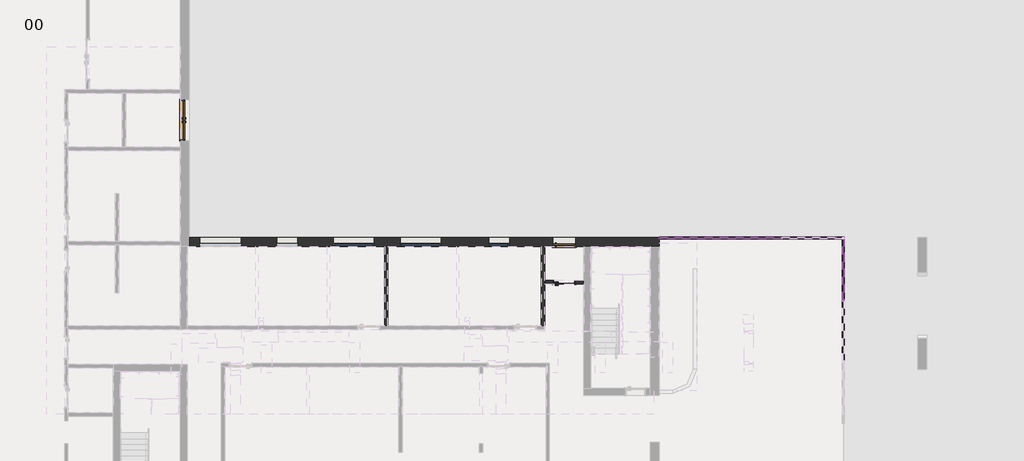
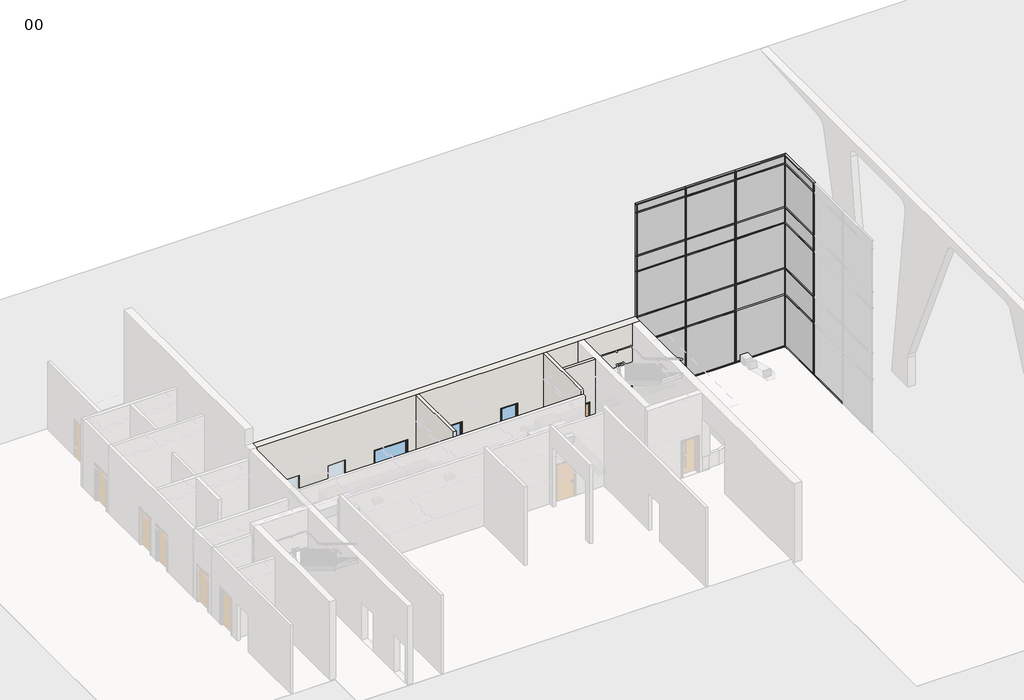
# One storey, part 7 of 12: 66 members, 24 plates, 4 walls, 3 doors, 3 windows.
"""IFC4 building model written with IfcOpenShell, lengths in millimetres."""

from ifc_helpers import new_model, si_unit, frame, origin, origin_with_axes, place, context, project, spatial, polyline, outline, extrude, faceted_brep, transform, mapped, element, save
from components import doors_extsgl_flush_1010x2110mm_caf77e55, doors_intsgl_1_1010x2110mm_7920e6b8, doors_sco_extdbl_flush_1810x2110mm_3cdf6cdb, rectangular_mullion_curtainwallmullion_rectangular_generic_8ae0e668, rectangular_mullion_curtainwallmullion_rectangular_generic_15c16c91, rectangular_mullion_curtainwallmullion_rectangular_generic_08fbcc14, rectangular_mullion_curtainwallmullion_rectangular_generic_83e55909, rectangular_mullion_curtainwallmullion_rectangular_generic_5675a122, rectangular_mullion_curtainwallmullion_rectangular_generic_397fb318, rectangular_mullion_curtainwallmullion_rectangular_generic_0a5b04f7, rectangular_mullion_curtainwallmullion_rectangular_generic_55e77994, rectangular_mullion_curtainwallmullion_rectangular_generic_aee1ee25, rectangular_mullion_curtainwallmullion_rectangular_generic_ecbc4312, rectangular_mullion_curtainwallmullion_rectangular_generic_5eb3c60d, rectangular_mullion_curtainwallmullion_rectangular_generic_0800385b, rectangular_mullion_curtainwallmullion_rectangular_generic_bd027367, rectangular_mullion_curtainwallmullion_rectangular_generic_2e425acd, rectangular_mullion_curtainwallmullion_rectangular_generic_12ad56c0, rectangular_mullion_curtainwallmullion_rectangular_generic_bd817207, rectangular_mullion_curtainwallmullion_rectangular_generic_654ac675, rectangular_mullion_curtainwallmullion_rectangular_generic_e7c47ca9, rectangular_mullion_curtainwallmullion_rectangular_generic_c0600e94, rectangular_mullion_curtainwallmullion_rectangular_generic_3bdb59d8, rectangular_mullion_curtainwallmullion_rectangular_generic_c640f651, rectangular_mullion_curtainwallmullion_rectangular_generic_afb0b622, rectangular_mullion_curtainwallmullion_rectangular_generic_b2d53351, rectangular_mullion_curtainwallmullion_rectangular_generic_d47b8a9d, system_panel_curtainpanel_glazed_34fb785a, system_panel_curtainpanel_glazed_e4a4eab4, system_panel_curtainpanel_glazed_add7ee21, system_panel_curtainpanel_glazed_62d472f1, system_panel_curtainpanel_glazed_085e24f9, system_panel_curtainpanel_glazed_61bd8d65, system_panel_curtainpanel_glazed_9c2ad216, system_panel_curtainpanel_glazed_ebc755d6, system_panel_curtainpanel_glazed_b0e91fb3, system_panel_curtainpanel_solid_dd3d5109, system_panel_curtainpanel_solid_473eca6b, system_panel_curtainpanel_solid_fc584997, system_panel_curtainpanel_solid_60141125, system_panel_curtainpanel_solid_58f7520c, system_panel_curtainpanel_solid_7c598b10, system_panel_curtainpanel_solid_5de49f81, system_panel_curtainpanel_solid_e1c9013e, system_panel_curtainpanel_solid_444add22, windows_concept_plain_sgl_1810x1210mm_7f7241d7, windows_concept_plain_sgl_910x1210mm_ef0b7ad2

model = new_model("IFC4")

# Units and contexts
model_context = context("Model", 3, world=origin())
ifc_project = project(units=[si_unit("LENGTHUNIT", "METRE", prefix="MILLI")], contexts=[model_context])

# Site, building, storey
site = spatial("IfcSite", under=ifc_project)
building = spatial("IfcBuilding", under=site)
storey = spatial("IfcBuildingStorey", under=building, Name="00", Elevation=0.0)

# Doors
placement = place(None, origin())
doors_extsgl_flush_1010x2110mm_shape = doors_extsgl_flush_1010x2110mm_caf77e55(model_context)
element("IfcDoor", 1, ObjectType="Doors_ExtSgl_Flush : 1010x2110mm", at=placement, inside=storey, context=model_context, shape_type="MappedRepresentation", body=[
    mapped(doors_extsgl_flush_1010x2110mm_shape, transform((441942.3206883, -381349.0026386, 0.0), x_axis=(1.0, 0.0, 0.0), y_axis=(0.0, 1.0, 0.0), z_axis=(0.0, 0.0, 1.0))),
])
doors_intsgl_1_1010x2110mm_shape = doors_intsgl_1_1010x2110mm_7920e6b8(model_context)
element("IfcDoor", 2, ObjectType="Doors_IntSgl_1 : 1010x2110mm", at=placement, inside=storey, context=model_context, shape_type="MappedRepresentation", body=[
    mapped(doors_intsgl_1_1010x2110mm_shape, transform((441942.3206883, -383125.0026386, 0.0), x_axis=(1.0, 0.0, 0.0), y_axis=(0.0, 1.0, 0.0), z_axis=(0.0, 0.0, 1.0))),
])
doors_sco_extdbl_flush_1810x2110mm_shape = doors_sco_extdbl_flush_1810x2110mm_3cdf6cdb(model_context)
element("IfcDoor", 3, ObjectType="Doors_SCO_ExtDbl_Flush : 1810x2110mm", at=placement, inside=storey, context=model_context, shape_type="MappedRepresentation", body=[
    mapped(doors_sco_extdbl_flush_1810x2110mm_shape, transform((425213.3206883, -375964.0026386, 0.0), x_axis=(0.0, 1.0, 0.0), y_axis=(-1.0, 0.0, 0.0), z_axis=(0.0, 0.0, 1.0))),
])

# Members
rectangular_mullion_curtainwallmullion_rectangular_generic_shape = rectangular_mullion_curtainwallmullion_rectangular_generic_8ae0e668(model_context)
element("IfcMember", 4, ObjectType="Rectangular Mullion : CurtainWallMullion_Rectangular_Generic", at=placement, inside=storey, context=model_context, shape_type="MappedRepresentation", body=[
    mapped(rectangular_mullion_curtainwallmullion_rectangular_generic_shape, transform((448817.3206884, -381170.0026386, 10486.7), x_axis=(1.0, 0.0, 0.0), y_axis=(0.0, -1.0, 0.0), z_axis=(0.0, 0.0, -1.0))),
])
element("IfcMember", 5, ObjectType="Rectangular Mullion : CurtainWallMullion_Rectangular_Generic", at=placement, inside=storey, context=model_context, shape_type="MappedRepresentation", body=[
    mapped(rectangular_mullion_curtainwallmullion_rectangular_generic_shape, transform((451519.3206882, -381170.0026386, 10486.7), x_axis=(1.0, 0.0, 0.0), y_axis=(0.0, -1.0, 0.0), z_axis=(0.0, 0.0, -1.0))),
])
element("IfcMember", 6, ObjectType="Rectangular Mullion : CurtainWallMullion_Rectangular_Generic", at=placement, inside=storey, context=model_context, shape_type="MappedRepresentation", body=[
    mapped(rectangular_mullion_curtainwallmullion_rectangular_generic_shape, transform((454246.3206883, -383909.6026389, 10486.7), x_axis=(0.0, -1.0, 0.0), y_axis=(-1.0, 0.0, 0.0), z_axis=(0.0, 0.0, -1.0))),
])
rectangular_mullion_curtainwallmullion_rectangular_generic_2_shape = rectangular_mullion_curtainwallmullion_rectangular_generic_15c16c91(model_context)
element("IfcMember", 7, ObjectType="Rectangular Mullion : CurtainWallMullion_Rectangular_Generic", at=placement, inside=storey, context=model_context, shape_type="MappedRepresentation", body=[
    mapped(rectangular_mullion_curtainwallmullion_rectangular_generic_2_shape, transform((454246.3206883, -381170.0026386, 10486.7), x_axis=(1.0, 0.0, 0.0), y_axis=(0.0, -1.0, 0.0), z_axis=(0.0, 0.0, -1.0))),
])
element("IfcMember", 8, ObjectType="Rectangular Mullion : CurtainWallMullion_Rectangular_Generic", at=placement, inside=storey, context=model_context, shape_type="MappedRepresentation", body=[
    mapped(rectangular_mullion_curtainwallmullion_rectangular_generic_2_shape, transform((446140.3206883, -381170.0026386, 10950.0), x_axis=(-1.0, 0.0, 0.0), y_axis=(0.0, -1.0, 0.0), z_axis=(0.0, 0.0, 1.0))),
])
element("IfcMember", 9, ObjectType="Rectangular Mullion : CurtainWallMullion_Rectangular_Generic", at=placement, inside=storey, context=model_context, shape_type="MappedRepresentation", body=[
    mapped(rectangular_mullion_curtainwallmullion_rectangular_generic_2_shape, transform((454246.3206883, -381170.0026386, 10950.0), x_axis=(0.0, 1.0, 0.0), y_axis=(-1.0, 0.0, 0.0), z_axis=(0.0, 0.0, 1.0))),
])
rectangular_mullion_curtainwallmullion_rectangular_generic_3_shape = rectangular_mullion_curtainwallmullion_rectangular_generic_08fbcc14(model_context)
element("IfcMember", 10, ObjectType="Rectangular Mullion : CurtainWallMullion_Rectangular_Generic", at=placement, inside=storey, context=model_context, shape_type="MappedRepresentation", body=[
    mapped(rectangular_mullion_curtainwallmullion_rectangular_generic_3_shape, transform((454246.3206883, -383909.6026389, 8000.0), x_axis=(0.0, -1.0, 0.0), y_axis=(-1.0, 0.0, 0.0), z_axis=(0.0, 0.0, -1.0))),
])
element("IfcMember", 11, ObjectType="Rectangular Mullion : CurtainWallMullion_Rectangular_Generic", at=placement, inside=storey, context=model_context, shape_type="MappedRepresentation", body=[
    mapped(rectangular_mullion_curtainwallmullion_rectangular_generic_3_shape, transform((448817.3206884, -381170.0026386, 8000.0), x_axis=(1.0, 0.0, 0.0), y_axis=(0.0, -1.0, 0.0), z_axis=(0.0, 0.0, -1.0))),
])
element("IfcMember", 12, ObjectType="Rectangular Mullion : CurtainWallMullion_Rectangular_Generic", at=placement, inside=storey, context=model_context, shape_type="MappedRepresentation", body=[
    mapped(rectangular_mullion_curtainwallmullion_rectangular_generic_3_shape, transform((451519.3206882, -381170.0026386, 8000.0), x_axis=(1.0, 0.0, 0.0), y_axis=(0.0, -1.0, 0.0), z_axis=(0.0, 0.0, -1.0))),
])
rectangular_mullion_curtainwallmullion_rectangular_generic_4_shape = rectangular_mullion_curtainwallmullion_rectangular_generic_83e55909(model_context)
element("IfcMember", 13, ObjectType="Rectangular Mullion : CurtainWallMullion_Rectangular_Generic", at=placement, inside=storey, context=model_context, shape_type="MappedRepresentation", body=[
    mapped(rectangular_mullion_curtainwallmullion_rectangular_generic_4_shape, transform((446140.3206883, -381170.0026386, 10486.7), x_axis=(-1.0, 0.0, 0.0), y_axis=(0.0, -1.0, 0.0), z_axis=(0.0, 0.0, 1.0))),
])
element("IfcMember", 14, ObjectType="Rectangular Mullion : CurtainWallMullion_Rectangular_Generic", at=placement, inside=storey, context=model_context, shape_type="MappedRepresentation", body=[
    mapped(rectangular_mullion_curtainwallmullion_rectangular_generic_4_shape, transform((454246.3206883, -381170.0026386, 10486.7), x_axis=(0.0, 1.0, 0.0), y_axis=(-1.0, 0.0, 0.0), z_axis=(0.0, 0.0, 1.0))),
])
rectangular_mullion_curtainwallmullion_rectangular_generic_5_shape = rectangular_mullion_curtainwallmullion_rectangular_generic_5675a122(model_context)
element("IfcMember", 15, ObjectType="Rectangular Mullion : CurtainWallMullion_Rectangular_Generic", at=placement, inside=storey, context=model_context, shape_type="MappedRepresentation", body=[
    mapped(rectangular_mullion_curtainwallmullion_rectangular_generic_5_shape, transform((448817.3206884, -381170.0026386, 50.0), x_axis=(1.0, 0.0, 0.0), y_axis=(0.0, -1.0, 0.0), z_axis=(0.0, 0.0, -1.0))),
])
element("IfcMember", 16, ObjectType="Rectangular Mullion : CurtainWallMullion_Rectangular_Generic", at=placement, inside=storey, context=model_context, shape_type="MappedRepresentation", body=[
    mapped(rectangular_mullion_curtainwallmullion_rectangular_generic_5_shape, transform((451519.3206882, -381170.0026386, 50.0), x_axis=(1.0, 0.0, 0.0), y_axis=(0.0, -1.0, 0.0), z_axis=(0.0, 0.0, -1.0))),
])
element("IfcMember", 17, ObjectType="Rectangular Mullion : CurtainWallMullion_Rectangular_Generic", at=placement, inside=storey, context=model_context, shape_type="MappedRepresentation", body=[
    mapped(rectangular_mullion_curtainwallmullion_rectangular_generic_5_shape, transform((454246.3206883, -383909.6026389, 50.0), x_axis=(0.0, -1.0, 0.0), y_axis=(-1.0, 0.0, 0.0), z_axis=(0.0, 0.0, -1.0))),
])
rectangular_mullion_curtainwallmullion_rectangular_generic_6_shape = rectangular_mullion_curtainwallmullion_rectangular_generic_397fb318(model_context)
element("IfcMember", 18, ObjectType="Rectangular Mullion : CurtainWallMullion_Rectangular_Generic", at=placement, inside=storey, context=model_context, shape_type="MappedRepresentation", body=[
    mapped(rectangular_mullion_curtainwallmullion_rectangular_generic_6_shape, transform((446140.3206883, -381170.0026386, 2425.0), x_axis=(-1.0, 0.0, 0.0), y_axis=(0.0, -1.0, 0.0), z_axis=(0.0, 0.0, 1.0))),
])
element("IfcMember", 19, ObjectType="Rectangular Mullion : CurtainWallMullion_Rectangular_Generic", at=placement, inside=storey, context=model_context, shape_type="MappedRepresentation", body=[
    mapped(rectangular_mullion_curtainwallmullion_rectangular_generic_6_shape, transform((454246.3206883, -381170.0026386, 2425.0), x_axis=(0.0, 1.0, 0.0), y_axis=(-1.0, 0.0, 0.0), z_axis=(0.0, 0.0, 1.0))),
])
element("IfcMember", 20, ObjectType="Rectangular Mullion : CurtainWallMullion_Rectangular_Generic", at=placement, inside=storey, context=model_context, shape_type="MappedRepresentation", body=[
    mapped(rectangular_mullion_curtainwallmullion_rectangular_generic_6_shape, transform((454246.3206883, -381170.0026386, 50.0), x_axis=(1.0, 0.0, 0.0), y_axis=(0.0, -1.0, 0.0), z_axis=(0.0, 0.0, -1.0))),
])
rectangular_mullion_curtainwallmullion_rectangular_generic_7_shape = rectangular_mullion_curtainwallmullion_rectangular_generic_0a5b04f7(model_context)
element("IfcMember", 21, ObjectType="Rectangular Mullion : CurtainWallMullion_Rectangular_Generic", at=placement, inside=storey, context=model_context, shape_type="MappedRepresentation", body=[
    mapped(rectangular_mullion_curtainwallmullion_rectangular_generic_7_shape, transform((454246.3206883, -381170.0026386, 11000.0), x_axis=(0.0, 0.0, 1.0), y_axis=(0.0, -1.0, 0.0), z_axis=(1.0, 0.0, 0.0))),
])
rectangular_mullion_curtainwallmullion_rectangular_generic_8_shape = rectangular_mullion_curtainwallmullion_rectangular_generic_55e77994(model_context)
element("IfcMember", 22, ObjectType="Rectangular Mullion : CurtainWallMullion_Rectangular_Generic", at=placement, inside=storey, context=model_context, shape_type="MappedRepresentation", body=[
    mapped(rectangular_mullion_curtainwallmullion_rectangular_generic_8_shape, transform((454246.3206883, -383909.6026389, 11000.0), x_axis=(0.0, 0.0, 1.0), y_axis=(-1.0, 0.0, 0.0), z_axis=(0.0, -1.0, 0.0))),
])
rectangular_mullion_curtainwallmullion_rectangular_generic_9_shape = rectangular_mullion_curtainwallmullion_rectangular_generic_aee1ee25(model_context)
element("IfcMember", 23, ObjectType="Rectangular Mullion : CurtainWallMullion_Rectangular_Generic", at=placement, inside=storey, context=model_context, shape_type="MappedRepresentation", body=[
    mapped(rectangular_mullion_curtainwallmullion_rectangular_generic_9_shape, transform((448817.3206884, -381170.0026386, 11000.0), x_axis=(0.0, 0.0, 1.0), y_axis=(0.0, -1.0, 0.0), z_axis=(1.0, 0.0, 0.0))),
])
rectangular_mullion_curtainwallmullion_rectangular_generic_10_shape = rectangular_mullion_curtainwallmullion_rectangular_generic_ecbc4312(model_context)
element("IfcMember", 24, ObjectType="Rectangular Mullion : CurtainWallMullion_Rectangular_Generic", at=placement, inside=storey, context=model_context, shape_type="MappedRepresentation", body=[
    mapped(rectangular_mullion_curtainwallmullion_rectangular_generic_10_shape, transform((451519.3206882, -381170.0026386, 11000.0), x_axis=(0.0, 0.0, 1.0), y_axis=(0.0, -1.0, 0.0), z_axis=(1.0, 0.0, 0.0))),
])
element("IfcMember", 25, ObjectType="Rectangular Mullion : CurtainWallMullion_Rectangular_Generic", at=placement, inside=storey, context=model_context, shape_type="MappedRepresentation", body=[
    mapped(rectangular_mullion_curtainwallmullion_rectangular_generic_9_shape, transform((446140.3206883, -381170.0026386, 0.0), x_axis=(0.0, 0.0, -1.0), y_axis=(0.0, -1.0, 0.0), z_axis=(-1.0, 0.0, 0.0))),
])
element("IfcMember", 26, ObjectType="Rectangular Mullion : CurtainWallMullion_Rectangular_Generic", at=placement, inside=storey, context=model_context, shape_type="MappedRepresentation", body=[
    mapped(rectangular_mullion_curtainwallmullion_rectangular_generic_10_shape, transform((448817.3206884, -381170.0026386, 0.0), x_axis=(0.0, 0.0, -1.0), y_axis=(0.0, -1.0, 0.0), z_axis=(-1.0, 0.0, 0.0))),
])
rectangular_mullion_curtainwallmullion_rectangular_generic_11_shape = rectangular_mullion_curtainwallmullion_rectangular_generic_5eb3c60d(model_context)
element("IfcMember", 27, ObjectType="Rectangular Mullion : CurtainWallMullion_Rectangular_Generic", at=placement, inside=storey, context=model_context, shape_type="MappedRepresentation", body=[
    mapped(rectangular_mullion_curtainwallmullion_rectangular_generic_11_shape, transform((451519.3206882, -381170.0026386, 0.0), x_axis=(0.0, 0.0, -1.0), y_axis=(0.0, -1.0, 0.0), z_axis=(-1.0, 0.0, 0.0))),
])
rectangular_mullion_curtainwallmullion_rectangular_generic_12_shape = rectangular_mullion_curtainwallmullion_rectangular_generic_0800385b(model_context)
element("IfcMember", 28, ObjectType="Rectangular Mullion : CurtainWallMullion_Rectangular_Generic", at=placement, inside=storey, context=model_context, shape_type="MappedRepresentation", body=[
    mapped(rectangular_mullion_curtainwallmullion_rectangular_generic_12_shape, transform((454246.3206883, -381170.0026386, 0.0), x_axis=(0.0, 0.0, -1.0), y_axis=(-1.0, 0.0, 0.0), z_axis=(0.0, 1.0, 0.0))),
])
rectangular_mullion_curtainwallmullion_rectangular_generic_13_shape = rectangular_mullion_curtainwallmullion_rectangular_generic_bd027367(model_context)
element("IfcMember", 29, ObjectType="Rectangular Mullion : CurtainWallMullion_Rectangular_Generic", at=placement, inside=storey, context=model_context, shape_type="MappedRepresentation", body=[
    mapped(rectangular_mullion_curtainwallmullion_rectangular_generic_13_shape, transform((448792.3206884, -381170.0026386, 4500.0), x_axis=(0.0, 0.0, 1.0), y_axis=(0.0, -1.0, 0.0), z_axis=(1.0, 0.0, 0.0))),
])
element("IfcMember", 30, ObjectType="Rectangular Mullion : CurtainWallMullion_Rectangular_Generic", at=placement, inside=storey, context=model_context, shape_type="MappedRepresentation", body=[
    mapped(rectangular_mullion_curtainwallmullion_rectangular_generic_13_shape, transform((448792.3206884, -381170.0026386, 7100.0), x_axis=(0.0, 0.0, 1.0), y_axis=(0.0, -1.0, 0.0), z_axis=(1.0, 0.0, 0.0))),
])
element("IfcMember", 31, ObjectType="Rectangular Mullion : CurtainWallMullion_Rectangular_Generic", at=placement, inside=storey, context=model_context, shape_type="MappedRepresentation", body=[
    mapped(rectangular_mullion_curtainwallmullion_rectangular_generic_13_shape, transform((448792.3206884, -381170.0026386, 10486.7), x_axis=(0.0, 0.0, 1.0), y_axis=(0.0, -1.0, 0.0), z_axis=(1.0, 0.0, 0.0))),
])
element("IfcMember", 32, ObjectType="Rectangular Mullion : CurtainWallMullion_Rectangular_Generic", at=placement, inside=storey, context=model_context, shape_type="MappedRepresentation", body=[
    mapped(rectangular_mullion_curtainwallmullion_rectangular_generic_13_shape, transform((448792.3206884, -381170.0026386, 8000.0), x_axis=(0.0, 0.0, 1.0), y_axis=(0.0, -1.0, 0.0), z_axis=(1.0, 0.0, 0.0))),
])
element("IfcMember", 33, ObjectType="Rectangular Mullion : CurtainWallMullion_Rectangular_Generic", at=placement, inside=storey, context=model_context, shape_type="MappedRepresentation", body=[
    mapped(rectangular_mullion_curtainwallmullion_rectangular_generic_13_shape, transform((448792.3206884, -381170.0026386, 3000.0), x_axis=(0.0, 0.0, 1.0), y_axis=(0.0, -1.0, 0.0), z_axis=(1.0, 0.0, 0.0))),
])
rectangular_mullion_curtainwallmullion_rectangular_generic_14_shape = rectangular_mullion_curtainwallmullion_rectangular_generic_2e425acd(model_context)
element("IfcMember", 34, ObjectType="Rectangular Mullion : CurtainWallMullion_Rectangular_Generic", at=placement, inside=storey, context=model_context, shape_type="MappedRepresentation", body=[
    mapped(rectangular_mullion_curtainwallmullion_rectangular_generic_14_shape, transform((451494.3206882, -381170.0026386, 4500.0), x_axis=(0.0, 0.0, 1.0), y_axis=(0.0, -1.0, 0.0), z_axis=(1.0, 0.0, 0.0))),
])
element("IfcMember", 35, ObjectType="Rectangular Mullion : CurtainWallMullion_Rectangular_Generic", at=placement, inside=storey, context=model_context, shape_type="MappedRepresentation", body=[
    mapped(rectangular_mullion_curtainwallmullion_rectangular_generic_14_shape, transform((454196.3206883, -381170.0026386, 4500.0), x_axis=(0.0, 0.0, 1.0), y_axis=(0.0, -1.0, 0.0), z_axis=(1.0, 0.0, 0.0))),
])
element("IfcMember", 36, ObjectType="Rectangular Mullion : CurtainWallMullion_Rectangular_Generic", at=placement, inside=storey, context=model_context, shape_type="MappedRepresentation", body=[
    mapped(rectangular_mullion_curtainwallmullion_rectangular_generic_14_shape, transform((451494.3206882, -381170.0026386, 7100.0), x_axis=(0.0, 0.0, 1.0), y_axis=(0.0, -1.0, 0.0), z_axis=(1.0, 0.0, 0.0))),
])
element("IfcMember", 37, ObjectType="Rectangular Mullion : CurtainWallMullion_Rectangular_Generic", at=placement, inside=storey, context=model_context, shape_type="MappedRepresentation", body=[
    mapped(rectangular_mullion_curtainwallmullion_rectangular_generic_14_shape, transform((454196.3206883, -381170.0026386, 7100.0), x_axis=(0.0, 0.0, 1.0), y_axis=(0.0, -1.0, 0.0), z_axis=(1.0, 0.0, 0.0))),
])
element("IfcMember", 38, ObjectType="Rectangular Mullion : CurtainWallMullion_Rectangular_Generic", at=placement, inside=storey, context=model_context, shape_type="MappedRepresentation", body=[
    mapped(rectangular_mullion_curtainwallmullion_rectangular_generic_14_shape, transform((451494.3206882, -381170.0026386, 10486.7), x_axis=(0.0, 0.0, 1.0), y_axis=(0.0, -1.0, 0.0), z_axis=(1.0, 0.0, 0.0))),
])
element("IfcMember", 39, ObjectType="Rectangular Mullion : CurtainWallMullion_Rectangular_Generic", at=placement, inside=storey, context=model_context, shape_type="MappedRepresentation", body=[
    mapped(rectangular_mullion_curtainwallmullion_rectangular_generic_14_shape, transform((454196.3206883, -381170.0026386, 10486.7), x_axis=(0.0, 0.0, 1.0), y_axis=(0.0, -1.0, 0.0), z_axis=(1.0, 0.0, 0.0))),
])
element("IfcMember", 40, ObjectType="Rectangular Mullion : CurtainWallMullion_Rectangular_Generic", at=placement, inside=storey, context=model_context, shape_type="MappedRepresentation", body=[
    mapped(rectangular_mullion_curtainwallmullion_rectangular_generic_14_shape, transform((451494.3206882, -381170.0026386, 8000.0), x_axis=(0.0, 0.0, 1.0), y_axis=(0.0, -1.0, 0.0), z_axis=(1.0, 0.0, 0.0))),
])
element("IfcMember", 41, ObjectType="Rectangular Mullion : CurtainWallMullion_Rectangular_Generic", at=placement, inside=storey, context=model_context, shape_type="MappedRepresentation", body=[
    mapped(rectangular_mullion_curtainwallmullion_rectangular_generic_14_shape, transform((451494.3206882, -381170.0026386, 3000.0), x_axis=(0.0, 0.0, 1.0), y_axis=(0.0, -1.0, 0.0), z_axis=(1.0, 0.0, 0.0))),
])
rectangular_mullion_curtainwallmullion_rectangular_generic_15_shape = rectangular_mullion_curtainwallmullion_rectangular_generic_12ad56c0(model_context)
element("IfcMember", 42, ObjectType="Rectangular Mullion : CurtainWallMullion_Rectangular_Generic", at=placement, inside=storey, context=model_context, shape_type="MappedRepresentation", body=[
    mapped(rectangular_mullion_curtainwallmullion_rectangular_generic_15_shape, transform((454246.3206883, -383909.6026389, 0.0), x_axis=(0.0, 0.0, -1.0), y_axis=(-1.0, 0.0, 0.0), z_axis=(0.0, 1.0, 0.0))),
])
rectangular_mullion_curtainwallmullion_rectangular_generic_16_shape = rectangular_mullion_curtainwallmullion_rectangular_generic_bd817207(model_context)
element("IfcMember", 43, ObjectType="Rectangular Mullion : CurtainWallMullion_Rectangular_Generic", at=placement, inside=storey, context=model_context, shape_type="MappedRepresentation", body=[
    mapped(rectangular_mullion_curtainwallmullion_rectangular_generic_16_shape, transform((454246.3206883, -383884.6026389, 4500.0), x_axis=(0.0, 0.0, 1.0), y_axis=(-1.0, 0.0, 0.0), z_axis=(0.0, -1.0, 0.0))),
])
element("IfcMember", 44, ObjectType="Rectangular Mullion : CurtainWallMullion_Rectangular_Generic", at=placement, inside=storey, context=model_context, shape_type="MappedRepresentation", body=[
    mapped(rectangular_mullion_curtainwallmullion_rectangular_generic_16_shape, transform((454246.3206883, -383884.6026389, 7100.0), x_axis=(0.0, 0.0, 1.0), y_axis=(-1.0, 0.0, 0.0), z_axis=(0.0, -1.0, 0.0))),
])
element("IfcMember", 45, ObjectType="Rectangular Mullion : CurtainWallMullion_Rectangular_Generic", at=placement, inside=storey, context=model_context, shape_type="MappedRepresentation", body=[
    mapped(rectangular_mullion_curtainwallmullion_rectangular_generic_16_shape, transform((454246.3206883, -383884.6026389, 10486.7), x_axis=(0.0, 0.0, 1.0), y_axis=(-1.0, 0.0, 0.0), z_axis=(0.0, -1.0, 0.0))),
])
element("IfcMember", 46, ObjectType="Rectangular Mullion : CurtainWallMullion_Rectangular_Generic", at=placement, inside=storey, context=model_context, shape_type="MappedRepresentation", body=[
    mapped(rectangular_mullion_curtainwallmullion_rectangular_generic_16_shape, transform((454246.3206883, -383884.6026389, 8000.0), x_axis=(0.0, 0.0, 1.0), y_axis=(-1.0, 0.0, 0.0), z_axis=(0.0, -1.0, 0.0))),
])
element("IfcMember", 47, ObjectType="Rectangular Mullion : CurtainWallMullion_Rectangular_Generic", at=placement, inside=storey, context=model_context, shape_type="MappedRepresentation", body=[
    mapped(rectangular_mullion_curtainwallmullion_rectangular_generic_16_shape, transform((454246.3206883, -383884.6026389, 3000.0), x_axis=(0.0, 0.0, 1.0), y_axis=(-1.0, 0.0, 0.0), z_axis=(0.0, -1.0, 0.0))),
])
rectangular_mullion_curtainwallmullion_rectangular_generic_17_shape = rectangular_mullion_curtainwallmullion_rectangular_generic_654ac675(model_context)
element("IfcMember", 48, ObjectType="Rectangular Mullion : CurtainWallMullion_Rectangular_Generic", at=placement, inside=storey, context=model_context, shape_type="MappedRepresentation", body=[
    mapped(rectangular_mullion_curtainwallmullion_rectangular_generic_17_shape, transform((448817.3206884, -381170.0026386, 4500.0), x_axis=(1.0, 0.0, 0.0), y_axis=(0.0, -1.0, 0.0), z_axis=(0.0, 0.0, -1.0))),
])
element("IfcMember", 49, ObjectType="Rectangular Mullion : CurtainWallMullion_Rectangular_Generic", at=placement, inside=storey, context=model_context, shape_type="MappedRepresentation", body=[
    mapped(rectangular_mullion_curtainwallmullion_rectangular_generic_17_shape, transform((451519.3206882, -381170.0026386, 4500.0), x_axis=(1.0, 0.0, 0.0), y_axis=(0.0, -1.0, 0.0), z_axis=(0.0, 0.0, -1.0))),
])
element("IfcMember", 50, ObjectType="Rectangular Mullion : CurtainWallMullion_Rectangular_Generic", at=placement, inside=storey, context=model_context, shape_type="MappedRepresentation", body=[
    mapped(rectangular_mullion_curtainwallmullion_rectangular_generic_17_shape, transform((454246.3206883, -383909.6026389, 4500.0), x_axis=(0.0, -1.0, 0.0), y_axis=(-1.0, 0.0, 0.0), z_axis=(0.0, 0.0, -1.0))),
])
rectangular_mullion_curtainwallmullion_rectangular_generic_18_shape = rectangular_mullion_curtainwallmullion_rectangular_generic_e7c47ca9(model_context)
element("IfcMember", 51, ObjectType="Rectangular Mullion : CurtainWallMullion_Rectangular_Generic", at=placement, inside=storey, context=model_context, shape_type="MappedRepresentation", body=[
    mapped(rectangular_mullion_curtainwallmullion_rectangular_generic_18_shape, transform((454246.3206883, -381170.0026386, 4500.0), x_axis=(1.0, 0.0, 0.0), y_axis=(0.0, -1.0, 0.0), z_axis=(0.0, 0.0, -1.0))),
])
element("IfcMember", 52, ObjectType="Rectangular Mullion : CurtainWallMullion_Rectangular_Generic", at=placement, inside=storey, context=model_context, shape_type="MappedRepresentation", body=[
    mapped(rectangular_mullion_curtainwallmullion_rectangular_generic_18_shape, transform((446140.3206883, -381170.0026386, 7100.0), x_axis=(-1.0, 0.0, 0.0), y_axis=(0.0, -1.0, 0.0), z_axis=(0.0, 0.0, 1.0))),
])
element("IfcMember", 53, ObjectType="Rectangular Mullion : CurtainWallMullion_Rectangular_Generic", at=placement, inside=storey, context=model_context, shape_type="MappedRepresentation", body=[
    mapped(rectangular_mullion_curtainwallmullion_rectangular_generic_18_shape, transform((454246.3206883, -381170.0026386, 7100.0), x_axis=(0.0, 1.0, 0.0), y_axis=(-1.0, 0.0, 0.0), z_axis=(0.0, 0.0, 1.0))),
])
rectangular_mullion_curtainwallmullion_rectangular_generic_19_shape = rectangular_mullion_curtainwallmullion_rectangular_generic_c0600e94(model_context)
element("IfcMember", 54, ObjectType="Rectangular Mullion : CurtainWallMullion_Rectangular_Generic", at=placement, inside=storey, context=model_context, shape_type="MappedRepresentation", body=[
    mapped(rectangular_mullion_curtainwallmullion_rectangular_generic_19_shape, transform((454246.3206883, -383909.6026389, 3000.0), x_axis=(0.0, -1.0, 0.0), y_axis=(-1.0, 0.0, 0.0), z_axis=(0.0, 0.0, -1.0))),
])
element("IfcMember", 55, ObjectType="Rectangular Mullion : CurtainWallMullion_Rectangular_Generic", at=placement, inside=storey, context=model_context, shape_type="MappedRepresentation", body=[
    mapped(rectangular_mullion_curtainwallmullion_rectangular_generic_19_shape, transform((448817.3206884, -381170.0026386, 3000.0), x_axis=(1.0, 0.0, 0.0), y_axis=(0.0, -1.0, 0.0), z_axis=(0.0, 0.0, -1.0))),
])
element("IfcMember", 56, ObjectType="Rectangular Mullion : CurtainWallMullion_Rectangular_Generic", at=placement, inside=storey, context=model_context, shape_type="MappedRepresentation", body=[
    mapped(rectangular_mullion_curtainwallmullion_rectangular_generic_19_shape, transform((451519.3206882, -381170.0026386, 3000.0), x_axis=(1.0, 0.0, 0.0), y_axis=(0.0, -1.0, 0.0), z_axis=(0.0, 0.0, -1.0))),
])
rectangular_mullion_curtainwallmullion_rectangular_generic_20_shape = rectangular_mullion_curtainwallmullion_rectangular_generic_3bdb59d8(model_context)
element("IfcMember", 57, ObjectType="Rectangular Mullion : CurtainWallMullion_Rectangular_Generic", at=placement, inside=storey, context=model_context, shape_type="MappedRepresentation", body=[
    mapped(rectangular_mullion_curtainwallmullion_rectangular_generic_20_shape, transform((446140.3206883, -381170.0026386, 4500.0), x_axis=(-1.0, 0.0, 0.0), y_axis=(0.0, -1.0, 0.0), z_axis=(0.0, 0.0, 1.0))),
])
element("IfcMember", 58, ObjectType="Rectangular Mullion : CurtainWallMullion_Rectangular_Generic", at=placement, inside=storey, context=model_context, shape_type="MappedRepresentation", body=[
    mapped(rectangular_mullion_curtainwallmullion_rectangular_generic_20_shape, transform((454246.3206883, -381170.0026386, 4500.0), x_axis=(0.0, 1.0, 0.0), y_axis=(-1.0, 0.0, 0.0), z_axis=(0.0, 0.0, 1.0))),
])
rectangular_mullion_curtainwallmullion_rectangular_generic_21_shape = rectangular_mullion_curtainwallmullion_rectangular_generic_c640f651(model_context)
element("IfcMember", 59, ObjectType="Rectangular Mullion : CurtainWallMullion_Rectangular_Generic", at=placement, inside=storey, context=model_context, shape_type="MappedRepresentation", body=[
    mapped(rectangular_mullion_curtainwallmullion_rectangular_generic_21_shape, transform((448817.3206884, -381170.0026386, 7100.0), x_axis=(1.0, 0.0, 0.0), y_axis=(0.0, -1.0, 0.0), z_axis=(0.0, 0.0, -1.0))),
])
element("IfcMember", 60, ObjectType="Rectangular Mullion : CurtainWallMullion_Rectangular_Generic", at=placement, inside=storey, context=model_context, shape_type="MappedRepresentation", body=[
    mapped(rectangular_mullion_curtainwallmullion_rectangular_generic_21_shape, transform((451519.3206882, -381170.0026386, 7100.0), x_axis=(1.0, 0.0, 0.0), y_axis=(0.0, -1.0, 0.0), z_axis=(0.0, 0.0, -1.0))),
])
element("IfcMember", 61, ObjectType="Rectangular Mullion : CurtainWallMullion_Rectangular_Generic", at=placement, inside=storey, context=model_context, shape_type="MappedRepresentation", body=[
    mapped(rectangular_mullion_curtainwallmullion_rectangular_generic_21_shape, transform((454246.3206883, -383909.6026389, 7100.0), x_axis=(0.0, -1.0, 0.0), y_axis=(-1.0, 0.0, 0.0), z_axis=(0.0, 0.0, -1.0))),
])
rectangular_mullion_curtainwallmullion_rectangular_generic_22_shape = rectangular_mullion_curtainwallmullion_rectangular_generic_afb0b622(model_context)
element("IfcMember", 62, ObjectType="Rectangular Mullion : CurtainWallMullion_Rectangular_Generic", at=placement, inside=storey, context=model_context, shape_type="MappedRepresentation", body=[
    mapped(rectangular_mullion_curtainwallmullion_rectangular_generic_22_shape, transform((454246.3206883, -381170.0026386, 7100.0), x_axis=(1.0, 0.0, 0.0), y_axis=(0.0, -1.0, 0.0), z_axis=(0.0, 0.0, -1.0))),
])
element("IfcMember", 63, ObjectType="Rectangular Mullion : CurtainWallMullion_Rectangular_Generic", at=placement, inside=storey, context=model_context, shape_type="MappedRepresentation", body=[
    mapped(rectangular_mullion_curtainwallmullion_rectangular_generic_22_shape, transform((454246.3206883, -381170.0026386, 8000.0), x_axis=(0.0, 1.0, 0.0), y_axis=(-1.0, 0.0, 0.0), z_axis=(0.0, 0.0, 1.0))),
])
element("IfcMember", 64, ObjectType="Rectangular Mullion : CurtainWallMullion_Rectangular_Generic", at=placement, inside=storey, context=model_context, shape_type="MappedRepresentation", body=[
    mapped(rectangular_mullion_curtainwallmullion_rectangular_generic_22_shape, transform((446140.3206883, -381170.0026386, 8000.0), x_axis=(-1.0, 0.0, 0.0), y_axis=(0.0, -1.0, 0.0), z_axis=(0.0, 0.0, 1.0))),
])
rectangular_mullion_curtainwallmullion_rectangular_generic_23_shape = rectangular_mullion_curtainwallmullion_rectangular_generic_b2d53351(model_context)
element("IfcMember", 65, ObjectType="Rectangular Mullion : CurtainWallMullion_Rectangular_Generic", at=placement, inside=storey, context=model_context, shape_type="MappedRepresentation", body=[
    mapped(rectangular_mullion_curtainwallmullion_rectangular_generic_23_shape, transform((448817.3206884, -381170.0026386, 2425.0), x_axis=(1.0, 0.0, 0.0), y_axis=(0.0, -1.0, 0.0), z_axis=(0.0, 0.0, -1.0))),
])
element("IfcMember", 66, ObjectType="Rectangular Mullion : CurtainWallMullion_Rectangular_Generic", at=placement, inside=storey, context=model_context, shape_type="MappedRepresentation", body=[
    mapped(rectangular_mullion_curtainwallmullion_rectangular_generic_23_shape, transform((451519.3206882, -381170.0026386, 2425.0), x_axis=(1.0, 0.0, 0.0), y_axis=(0.0, -1.0, 0.0), z_axis=(0.0, 0.0, -1.0))),
])
element("IfcMember", 67, ObjectType="Rectangular Mullion : CurtainWallMullion_Rectangular_Generic", at=placement, inside=storey, context=model_context, shape_type="MappedRepresentation", body=[
    mapped(rectangular_mullion_curtainwallmullion_rectangular_generic_23_shape, transform((454246.3206883, -383909.6026389, 2425.0), x_axis=(0.0, -1.0, 0.0), y_axis=(-1.0, 0.0, 0.0), z_axis=(0.0, 0.0, -1.0))),
])
rectangular_mullion_curtainwallmullion_rectangular_generic_24_shape = rectangular_mullion_curtainwallmullion_rectangular_generic_d47b8a9d(model_context)
element("IfcMember", 68, ObjectType="Rectangular Mullion : CurtainWallMullion_Rectangular_Generic", at=placement, inside=storey, context=model_context, shape_type="MappedRepresentation", body=[
    mapped(rectangular_mullion_curtainwallmullion_rectangular_generic_24_shape, transform((454246.3206883, -381170.0026386, 2425.0), x_axis=(1.0, 0.0, 0.0), y_axis=(0.0, -1.0, 0.0), z_axis=(0.0, 0.0, -1.0))),
])
element("IfcMember", 69, ObjectType="Rectangular Mullion : CurtainWallMullion_Rectangular_Generic", at=placement, inside=storey, context=model_context, shape_type="MappedRepresentation", body=[
    mapped(rectangular_mullion_curtainwallmullion_rectangular_generic_24_shape, transform((446140.3206883, -381170.0026386, 3000.0), x_axis=(-1.0, 0.0, 0.0), y_axis=(0.0, -1.0, 0.0), z_axis=(0.0, 0.0, 1.0))),
])

# Plates
system_panel_curtainpanel_glazed_shape = system_panel_curtainpanel_glazed_34fb785a(model_context)
element("IfcPlate", 70, ObjectType="System Panel : CurtainPanel_Glazed", at=placement, inside=storey, context=model_context, shape_type="MappedRepresentation", body=[
    mapped(system_panel_curtainpanel_glazed_shape, transform((454246.3206883, -382552.3026387, 8025.0), x_axis=(0.0, -1.0, 0.0), y_axis=(1.0, 0.0, 0.0), z_axis=(0.0, 0.0, 1.0))),
])
system_panel_curtainpanel_glazed_2_shape = system_panel_curtainpanel_glazed_e4a4eab4(model_context)
element("IfcPlate", 71, ObjectType="System Panel : CurtainPanel_Glazed", at=placement, inside=storey, context=model_context, shape_type="MappedRepresentation", body=[
    mapped(system_panel_curtainpanel_glazed_2_shape, transform((447491.3206884, -381170.0026386, 8025.0), x_axis=(1.0, 0.0, 0.0), y_axis=(0.0, 1.0, 0.0), z_axis=(0.0, 0.0, 1.0))),
])
system_panel_curtainpanel_glazed_3_shape = system_panel_curtainpanel_glazed_add7ee21(model_context)
element("IfcPlate", 72, ObjectType="System Panel : CurtainPanel_Glazed", at=placement, inside=storey, context=model_context, shape_type="MappedRepresentation", body=[
    mapped(system_panel_curtainpanel_glazed_3_shape, transform((450168.3206883, -381170.0026386, 8025.0), x_axis=(1.0, 0.0, 0.0), y_axis=(0.0, 1.0, 0.0), z_axis=(0.0, 0.0, 1.0))),
])
element("IfcPlate", 73, ObjectType="System Panel : CurtainPanel_Glazed", at=placement, inside=storey, context=model_context, shape_type="MappedRepresentation", body=[
    mapped(system_panel_curtainpanel_glazed_3_shape, transform((452870.3206883, -381170.0026386, 8025.0), x_axis=(1.0, 0.0, 0.0), y_axis=(0.0, 1.0, 0.0), z_axis=(0.0, 0.0, 1.0))),
])
system_panel_curtainpanel_glazed_4_shape = system_panel_curtainpanel_glazed_62d472f1(model_context)
element("IfcPlate", 74, ObjectType="System Panel : CurtainPanel_Glazed", at=placement, inside=storey, context=model_context, shape_type="MappedRepresentation", body=[
    mapped(system_panel_curtainpanel_glazed_4_shape, transform((454246.3206883, -382552.3026387, 50.0), x_axis=(0.0, -1.0, 0.0), y_axis=(1.0, 0.0, 0.0), z_axis=(0.0, 0.0, 1.0))),
])
system_panel_curtainpanel_glazed_5_shape = system_panel_curtainpanel_glazed_085e24f9(model_context)
element("IfcPlate", 75, ObjectType="System Panel : CurtainPanel_Glazed", at=placement, inside=storey, context=model_context, shape_type="MappedRepresentation", body=[
    mapped(system_panel_curtainpanel_glazed_5_shape, transform((447491.3206884, -381170.0026386, 50.0), x_axis=(1.0, 0.0, 0.0), y_axis=(0.0, 1.0, 0.0), z_axis=(0.0, 0.0, 1.0))),
])
system_panel_curtainpanel_glazed_6_shape = system_panel_curtainpanel_glazed_61bd8d65(model_context)
element("IfcPlate", 76, ObjectType="System Panel : CurtainPanel_Glazed", at=placement, inside=storey, context=model_context, shape_type="MappedRepresentation", body=[
    mapped(system_panel_curtainpanel_glazed_6_shape, transform((450168.3206883, -381170.0026386, 50.0), x_axis=(1.0, 0.0, 0.0), y_axis=(0.0, 1.0, 0.0), z_axis=(0.0, 0.0, 1.0))),
])
element("IfcPlate", 77, ObjectType="System Panel : CurtainPanel_Glazed", at=placement, inside=storey, context=model_context, shape_type="MappedRepresentation", body=[
    mapped(system_panel_curtainpanel_glazed_6_shape, transform((452870.3206883, -381170.0026386, 50.0), x_axis=(1.0, 0.0, 0.0), y_axis=(0.0, 1.0, 0.0), z_axis=(0.0, 0.0, 1.0))),
])
system_panel_curtainpanel_glazed_7_shape = system_panel_curtainpanel_glazed_9c2ad216(model_context)
element("IfcPlate", 78, ObjectType="System Panel : CurtainPanel_Glazed", at=placement, inside=storey, context=model_context, shape_type="MappedRepresentation", body=[
    mapped(system_panel_curtainpanel_glazed_7_shape, transform((454246.3206883, -382552.3026387, 4525.0), x_axis=(0.0, -1.0, 0.0), y_axis=(1.0, 0.0, 0.0), z_axis=(0.0, 0.0, 1.0))),
])
system_panel_curtainpanel_glazed_8_shape = system_panel_curtainpanel_glazed_ebc755d6(model_context)
element("IfcPlate", 79, ObjectType="System Panel : CurtainPanel_Glazed", at=placement, inside=storey, context=model_context, shape_type="MappedRepresentation", body=[
    mapped(system_panel_curtainpanel_glazed_8_shape, transform((447491.3206884, -381170.0026386, 4525.0), x_axis=(1.0, 0.0, 0.0), y_axis=(0.0, 1.0, 0.0), z_axis=(0.0, 0.0, 1.0))),
])
system_panel_curtainpanel_glazed_9_shape = system_panel_curtainpanel_glazed_b0e91fb3(model_context)
element("IfcPlate", 80, ObjectType="System Panel : CurtainPanel_Glazed", at=placement, inside=storey, context=model_context, shape_type="MappedRepresentation", body=[
    mapped(system_panel_curtainpanel_glazed_9_shape, transform((450168.3206883, -381170.0026386, 4525.0), x_axis=(1.0, 0.0, 0.0), y_axis=(0.0, 1.0, 0.0), z_axis=(0.0, 0.0, 1.0))),
])
element("IfcPlate", 81, ObjectType="System Panel : CurtainPanel_Glazed", at=placement, inside=storey, context=model_context, shape_type="MappedRepresentation", body=[
    mapped(system_panel_curtainpanel_glazed_9_shape, transform((452870.3206883, -381170.0026386, 4525.0), x_axis=(1.0, 0.0, 0.0), y_axis=(0.0, 1.0, 0.0), z_axis=(0.0, 0.0, 1.0))),
])
system_panel_curtainpanel_solid_shape = system_panel_curtainpanel_solid_dd3d5109(model_context)
element("IfcPlate", 82, ObjectType="System Panel : CurtainPanel_Solid", at=placement, inside=storey, context=model_context, shape_type="MappedRepresentation", body=[
    mapped(system_panel_curtainpanel_solid_shape, transform((447491.3206884, -381170.0026386, 10511.7), x_axis=(1.0, 0.0, 0.0), y_axis=(0.0, 1.0, 0.0), z_axis=(0.0, 0.0, 1.0))),
])
system_panel_curtainpanel_solid_2_shape = system_panel_curtainpanel_solid_473eca6b(model_context)
element("IfcPlate", 83, ObjectType="System Panel : CurtainPanel_Solid", at=placement, inside=storey, context=model_context, shape_type="MappedRepresentation", body=[
    mapped(system_panel_curtainpanel_solid_2_shape, transform((450168.3206883, -381170.0026386, 10511.7), x_axis=(1.0, 0.0, 0.0), y_axis=(0.0, 1.0, 0.0), z_axis=(0.0, 0.0, 1.0))),
])
element("IfcPlate", 84, ObjectType="System Panel : CurtainPanel_Solid", at=placement, inside=storey, context=model_context, shape_type="MappedRepresentation", body=[
    mapped(system_panel_curtainpanel_solid_2_shape, transform((452870.3206883, -381170.0026386, 10511.7), x_axis=(1.0, 0.0, 0.0), y_axis=(0.0, 1.0, 0.0), z_axis=(0.0, 0.0, 1.0))),
])
system_panel_curtainpanel_solid_3_shape = system_panel_curtainpanel_solid_fc584997(model_context)
element("IfcPlate", 85, ObjectType="System Panel : CurtainPanel_Solid", at=placement, inside=storey, context=model_context, shape_type="MappedRepresentation", body=[
    mapped(system_panel_curtainpanel_solid_3_shape, transform((454246.3206883, -382552.3026387, 10511.7), x_axis=(0.0, -1.0, 0.0), y_axis=(1.0, 0.0, 0.0), z_axis=(0.0, 0.0, 1.0))),
])
system_panel_curtainpanel_solid_4_shape = system_panel_curtainpanel_solid_60141125(model_context)
element("IfcPlate", 86, ObjectType="System Panel : CurtainPanel_Solid", at=placement, inside=storey, context=model_context, shape_type="MappedRepresentation", body=[
    mapped(system_panel_curtainpanel_solid_4_shape, transform((454246.3206883, -382552.3026387, 3025.0), x_axis=(0.0, -1.0, 0.0), y_axis=(1.0, 0.0, 0.0), z_axis=(0.0, 0.0, 1.0))),
])
system_panel_curtainpanel_solid_5_shape = system_panel_curtainpanel_solid_58f7520c(model_context)
element("IfcPlate", 87, ObjectType="System Panel : CurtainPanel_Solid", at=placement, inside=storey, context=model_context, shape_type="MappedRepresentation", body=[
    mapped(system_panel_curtainpanel_solid_5_shape, transform((447491.3206884, -381170.0026386, 3025.0), x_axis=(1.0, 0.0, 0.0), y_axis=(0.0, 1.0, 0.0), z_axis=(0.0, 0.0, 1.0))),
])
system_panel_curtainpanel_solid_6_shape = system_panel_curtainpanel_solid_7c598b10(model_context)
element("IfcPlate", 88, ObjectType="System Panel : CurtainPanel_Solid", at=placement, inside=storey, context=model_context, shape_type="MappedRepresentation", body=[
    mapped(system_panel_curtainpanel_solid_6_shape, transform((450168.3206883, -381170.0026386, 3025.0), x_axis=(1.0, 0.0, 0.0), y_axis=(0.0, 1.0, 0.0), z_axis=(0.0, 0.0, 1.0))),
])
element("IfcPlate", 89, ObjectType="System Panel : CurtainPanel_Solid", at=placement, inside=storey, context=model_context, shape_type="MappedRepresentation", body=[
    mapped(system_panel_curtainpanel_solid_6_shape, transform((452870.3206883, -381170.0026386, 3025.0), x_axis=(1.0, 0.0, 0.0), y_axis=(0.0, 1.0, 0.0), z_axis=(0.0, 0.0, 1.0))),
])
system_panel_curtainpanel_solid_7_shape = system_panel_curtainpanel_solid_5de49f81(model_context)
element("IfcPlate", 90, ObjectType="System Panel : CurtainPanel_Solid", at=placement, inside=storey, context=model_context, shape_type="MappedRepresentation", body=[
    mapped(system_panel_curtainpanel_solid_7_shape, transform((454246.3206883, -382552.3026387, 7125.0), x_axis=(0.0, -1.0, 0.0), y_axis=(1.0, 0.0, 0.0), z_axis=(0.0, 0.0, 1.0))),
])
system_panel_curtainpanel_solid_8_shape = system_panel_curtainpanel_solid_e1c9013e(model_context)
element("IfcPlate", 91, ObjectType="System Panel : CurtainPanel_Solid", at=placement, inside=storey, context=model_context, shape_type="MappedRepresentation", body=[
    mapped(system_panel_curtainpanel_solid_8_shape, transform((447491.3206884, -381170.0026386, 7125.0), x_axis=(1.0, 0.0, 0.0), y_axis=(0.0, 1.0, 0.0), z_axis=(0.0, 0.0, 1.0))),
])
system_panel_curtainpanel_solid_9_shape = system_panel_curtainpanel_solid_444add22(model_context)
element("IfcPlate", 92, ObjectType="System Panel : CurtainPanel_Solid", at=placement, inside=storey, context=model_context, shape_type="MappedRepresentation", body=[
    mapped(system_panel_curtainpanel_solid_9_shape, transform((450168.3206883, -381170.0026386, 7125.0), x_axis=(1.0, 0.0, 0.0), y_axis=(0.0, 1.0, 0.0), z_axis=(0.0, 0.0, 1.0))),
])
element("IfcPlate", 93, ObjectType="System Panel : CurtainPanel_Solid", at=placement, inside=storey, context=model_context, shape_type="MappedRepresentation", body=[
    mapped(system_panel_curtainpanel_solid_9_shape, transform((452870.3206883, -381170.0026386, 7125.0), x_axis=(1.0, 0.0, 0.0), y_axis=(0.0, 1.0, 0.0), z_axis=(0.0, 0.0, 1.0))),
])

# Walls
element("IfcWall", 94, ObjectType="Wall_Exterior_WSUK", at=placement, inside=storey, context=model_context, shape_type="Brep", body=[
    faceted_brep([(425414.3206883, -381550.0026386, 4500.0), (425414.3206883, -381550.0026386, -1000.0), (442792.3206883, -381550.0026386, -1000.0), (443102.3206883, -381550.0026386, -1000.0), (445738.3206883, -381550.0026386, -1000.0), (446140.3206883, -381550.0026386, -1000.0), (446140.3206883, -381550.0026386, 4500.0), (445738.3206883, -381550.0026386, 4500.0), (443102.3206883, -381550.0026386, 4500.0), (442792.3206883, -381550.0026386, 4500.0), (441072.3206883, -381550.0026386, 4500.0), (440922.3206883, -381550.0026386, 4500.0), (434172.3206883, -381550.0026386, 4500.0), (434022.3206883, -381550.0026386, 4500.0), (441437.3206883, -381550.0026386, 2110.0), (442447.3206883, -381550.0026386, 2110.0), (442447.3206883, -381550.0026386, 0.0), (441437.3206883, -381550.0026386, 0.0), (427693.3206883, -381550.0026386, 2110.0), (427693.3206883, -381550.0026386, 900.0), (425883.3206883, -381550.0026386, 900.0), (425883.3206883, -381550.0026386, 2110.0), (430185.3206883, -381550.0026386, 2110.0), (430185.3206883, -381550.0026386, 900.0), (429275.3206883, -381550.0026386, 900.0), (429275.3206883, -381550.0026386, 2110.0), (433577.3206883, -381550.0026386, 2110.0), (433577.3206883, -381550.0026386, 900.0), (431767.3206883, -381550.0026386, 900.0), (431767.3206883, -381550.0026386, 2110.0), (436519.3206883, -381550.0026386, 2110.0), (436519.3206883, -381550.0026386, 900.0), (434709.3206883, -381550.0026386, 900.0), (434709.3206883, -381550.0026386, 2110.0), (439531.3206883, -381550.0026386, 2110.0), (439531.3206883, -381550.0026386, 900.0), (438621.3206883, -381550.0026386, 900.0), (438621.3206883, -381550.0026386, 2110.0), (425414.3206883, -381148.0026386, -1000.0), (425414.3206883, -381148.0026386, 4500.0), (446140.3206883, -381148.0026386, 4500.0), (446140.3206883, -381148.0026386, -1000.0), (441437.3206883, -381148.0026386, 2110.0), (441437.3206883, -381148.0026386, 0.0), (442447.3206883, -381148.0026386, 0.0), (442447.3206883, -381148.0026386, 2110.0), (427693.3206883, -381148.0026386, 2110.0), (425883.3206883, -381148.0026386, 2110.0), (425883.3206883, -381148.0026386, 900.0), (427693.3206883, -381148.0026386, 900.0), (430185.3206883, -381148.0026386, 2110.0), (429275.3206883, -381148.0026386, 2110.0), (429275.3206883, -381148.0026386, 900.0), (430185.3206883, -381148.0026386, 900.0), (433577.3206883, -381148.0026386, 2110.0), (431767.3206883, -381148.0026386, 2110.0), (431767.3206883, -381148.0026386, 900.0), (433577.3206883, -381148.0026386, 900.0), (436519.3206883, -381148.0026386, 2110.0), (434709.3206883, -381148.0026386, 2110.0), (434709.3206883, -381148.0026386, 900.0), (436519.3206883, -381148.0026386, 900.0), (439531.3206883, -381148.0026386, 2110.0), (438621.3206883, -381148.0026386, 2110.0), (438621.3206883, -381148.0026386, 900.0), (439531.3206883, -381148.0026386, 900.0)], [[[0, 1, 2, 3, 4, 5, 6, 7, 8, 9, 10, 11, 12, 13], [14, 15, 16, 17], [18, 19, 20, 21], [22, 23, 24, 25], [26, 27, 28, 29], [30, 31, 32, 33], [34, 35, 36, 37]], [[38, 39, 40, 41], [42, 43, 44, 45], [46, 47, 48, 49], [50, 51, 52, 53], [54, 55, 56, 57], [58, 59, 60, 61], [62, 63, 64, 65]], [[5, 4, 3, 2, 1, 38, 41]], [[0, 13, 12, 11, 10, 9, 8, 7, 6, 40, 39]], [[43, 42, 14, 17]], [[44, 43, 17, 16]], [[45, 44, 16, 15]], [[42, 45, 15, 14]], [[6, 5, 41, 40]], [[19, 18, 46, 49]], [[20, 19, 49, 48]], [[21, 20, 48, 47]], [[18, 21, 47, 46]], [[23, 22, 50, 53]], [[24, 23, 53, 52]], [[25, 24, 52, 51]], [[22, 25, 51, 50]], [[27, 26, 54, 57]], [[28, 27, 57, 56]], [[29, 28, 56, 55]], [[26, 29, 55, 54]], [[31, 30, 58, 61]], [[32, 31, 61, 60]], [[33, 32, 60, 59]], [[30, 33, 59, 58]], [[35, 34, 62, 65]], [[36, 35, 65, 64]], [[37, 36, 64, 63]], [[34, 37, 63, 62]], [[0, 39, 38, 1]]]),
])
element("IfcWall", 95, ObjectType="Wall_Interior_WSUK", at=placement, inside=storey, context=model_context, shape_type="Brep", body=[
    faceted_brep([(441072.3206883, -385049.0026386, 0.0), (441072.3206883, -383200.0026386, 0.0), (441072.3206883, -383050.0026386, 0.0), (441072.3206883, -381550.0026386, 0.0), (441072.3206883, -381550.0026386, 4500.0), (441072.3206883, -383050.0026386, 4500.0), (441072.3206883, -383200.0026386, 4500.0), (441072.3206883, -385049.0026386, 4500.0), (441072.3206883, -385049.0026386, 4200.0), (440922.3206883, -385049.0026386, 0.0), (440922.3206883, -385049.0026386, 4500.0), (440922.3206883, -381550.0026386, 4500.0), (440922.3206883, -381550.0026386, 0.0)], [[[0, 1, 2, 3, 4, 5, 6, 7, 8]], [[9, 10, 11, 12]], [[3, 2, 1, 0, 9, 12]], [[7, 6, 5, 4, 11, 10]], [[0, 8, 7, 10, 9]], [[4, 3, 12, 11]]]),
])
element("IfcWall", 96, ObjectType="Wall_Interior_WSUK", at=placement, inside=storey, context=model_context, shape_type="SweptSolid", body=[
    extrude(outline(polyline([(434172.3206883, -381550.0026386), (434172.3206883, -385049.0026386), (434022.3206883, -385049.0026386), (434022.3206883, -381550.0026386), (434172.3206883, -381550.0026386)])), origin_with_axes(), (0.0, 0.0, 1.0), 4500.0),
])
element("IfcWall", 97, ObjectType="Wall_Interior_WSUK", at=placement, inside=storey, context=model_context, shape_type="SweptSolid", body=[
    extrude(outline(polyline([(4500.0, 442792.3206883), (4500.0, 441072.3206883), (0.0, 441072.3206883), (0.0, 441437.3206883), (2110.0, 441437.3206883), (2110.0, 442447.3206883), (0.0, 442447.3206883), (0.0, 442792.3206883), (4500.0, 442792.3206883)])), frame((0.0, -383200.0026386, 0.0), z_axis=(0.0, 1.0, 0.0), x_axis=(0.0, 0.0, 1.0)), (0.0, 0.0, 1.0), 150.0),
])

# Windows
windows_concept_plain_sgl_1810x1210mm_shape = windows_concept_plain_sgl_1810x1210mm_7f7241d7(model_context)
element("IfcWindow", 98, ObjectType="Windows_Concept_Plain_Sgl : 1810x1210mm", at=placement, inside=storey, context=model_context, shape_type="MappedRepresentation", body=[
    mapped(windows_concept_plain_sgl_1810x1210mm_shape, transform((432672.3206883, -381340.5460708, 0.0), x_axis=(-1.0, 0.0, 0.0), y_axis=(0.0, -1.0, 0.0), z_axis=(0.0, 0.0, 1.0))),
])
element("IfcWindow", 99, ObjectType="Windows_Concept_Plain_Sgl : 1810x1210mm", at=placement, inside=storey, context=model_context, shape_type="MappedRepresentation", body=[
    mapped(windows_concept_plain_sgl_1810x1210mm_shape, transform((435614.3206883, -381340.5460708, 0.0), x_axis=(-1.0, 0.0, 0.0), y_axis=(0.0, -1.0, 0.0), z_axis=(0.0, 0.0, 1.0))),
])
windows_concept_plain_sgl_910x1210mm_shape = windows_concept_plain_sgl_910x1210mm_ef0b7ad2(model_context)
element("IfcWindow", 100, ObjectType="Windows_Concept_Plain_Sgl : 910x1210mm", at=placement, inside=storey, context=model_context, shape_type="MappedRepresentation", body=[
    mapped(windows_concept_plain_sgl_910x1210mm_shape, transform((439076.3206883, -381340.5460708, 0.0), x_axis=(-1.0, 0.0, 0.0), y_axis=(0.0, -1.0, 0.0), z_axis=(0.0, 0.0, 1.0))),
])

save(model, "model.ifc")
